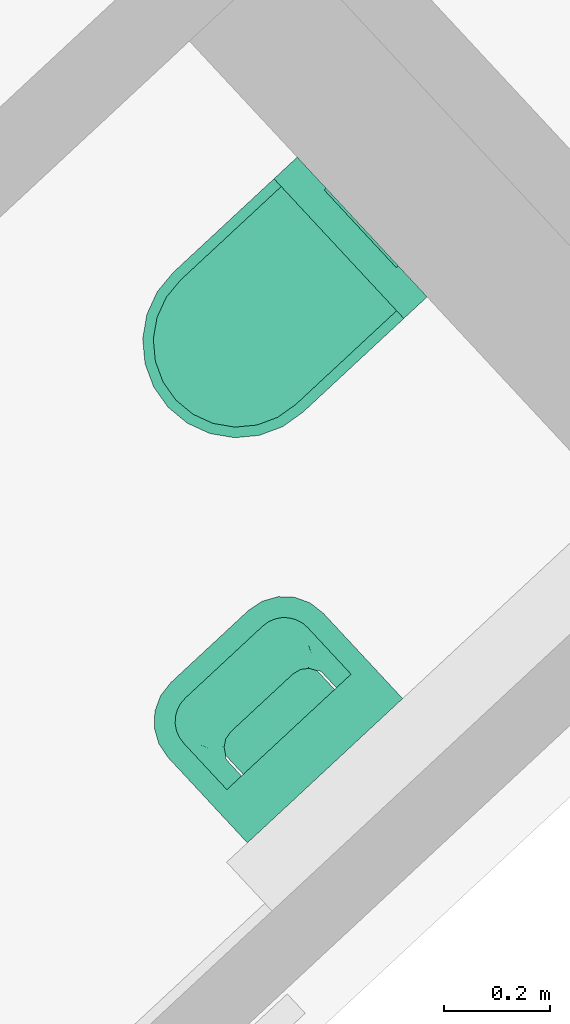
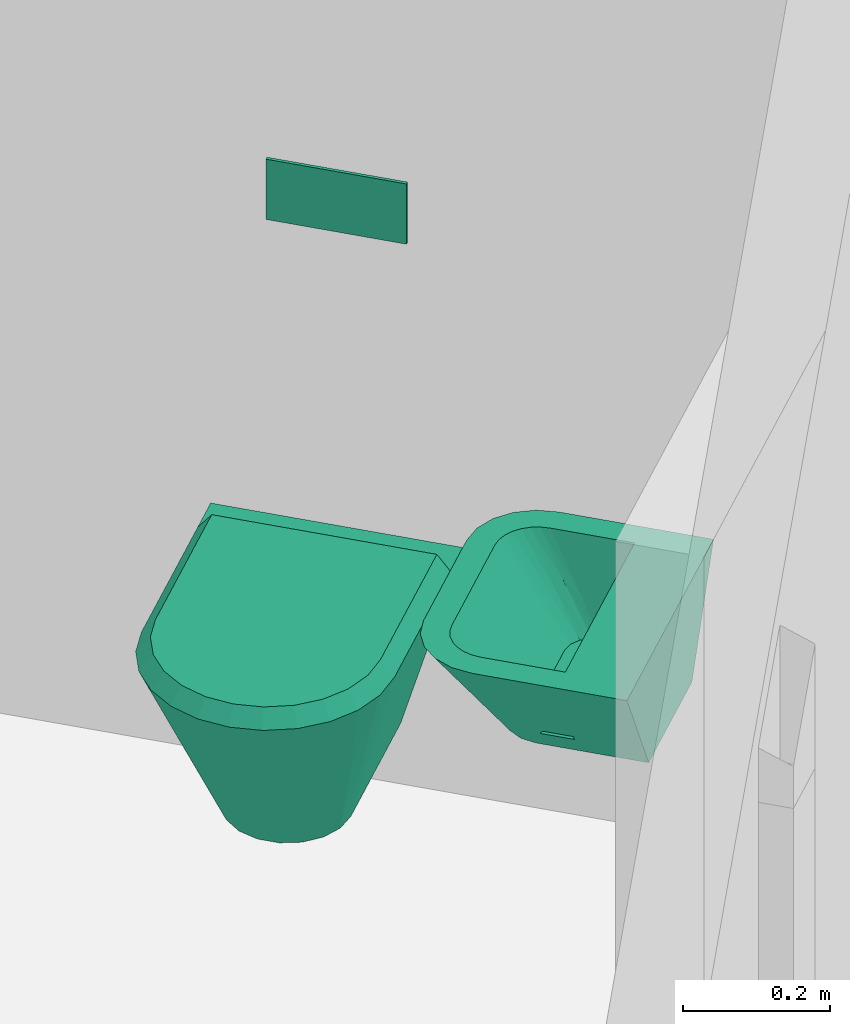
# One storey, part 6 of 7: 2 flow terminals.
"""IFC2X3 building model written with IfcOpenShell, lengths in millimetres."""

from ifc_helpers import new_model, entity, si_unit, converted_unit, derived_unit, direction, frame, frame_2d, origin, origin_with_axes, place, context, subcontext, project, spatial, rectangle, extrude, faceted_brep, source, transform, mapped, material, material_list, type_object, element, save


model = new_model("IFC2X3")

# Units and contexts
model_context = context("Model", 3, precision=0.01, world=origin(), true_north=direction((6.12323399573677e-17, 1.0)))
plan_context = context("Plan", 3, precision=1e-05, world=origin_with_axes())
body_context = subcontext(model_context, "Body", "Model", "MODEL_VIEW")
ifc_project = project(units=[converted_unit("PLANEANGLEUNIT", "DEGREE", entity("IfcPositiveLengthMeasure", 0.0174532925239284), si_unit("PLANEANGLEUNIT", "RADIAN"), dimensions=[0, 0, 0, 0, 0, 0, 0]), si_unit("AREAUNIT", "SQUARE_METRE"), si_unit("LENGTHUNIT", "METRE", prefix="MILLI"), si_unit("MASSUNIT", "GRAM", prefix="KILO"), si_unit("POWERUNIT", "WATT"), si_unit("PRESSUREUNIT", "PASCAL", prefix="KILO"), si_unit("FORCEUNIT", "NEWTON", prefix="KILO"), si_unit("ELECTRICVOLTAGEUNIT", "VOLT"), si_unit("ELECTRICCURRENTUNIT", "AMPERE"), si_unit("THERMODYNAMICTEMPERATUREUNIT", "DEGREE_CELSIUS"), si_unit("TIMEUNIT", "SECOND"), si_unit("VOLUMEUNIT", "CUBIC_METRE"), derived_unit("LINEARVELOCITYUNIT", [(si_unit("LENGTHUNIT", "METRE"), 1), (si_unit("TIMEUNIT", "SECOND"), -1)]), derived_unit("VOLUMETRICFLOWRATEUNIT", [(si_unit("VOLUMEUNIT", "CUBIC_METRE"), 1), (si_unit("TIMEUNIT", "SECOND"), -1)]), derived_unit("THERMALTRANSMITTANCEUNIT", [(si_unit("POWERUNIT", "WATT"), 1), (si_unit("THERMODYNAMICTEMPERATUREUNIT", "KELVIN"), -1), (si_unit("AREAUNIT", "SQUARE_METRE"), -1)]), derived_unit("SOUNDPRESSUREUNIT", [(si_unit("PRESSUREUNIT", "PASCAL"), 1)])], contexts=[model_context, plan_context])

# Site, building, storey
site_placement = place(None, frame((159880.25068742, 140851.808625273, 0.0), z_axis=(0.0, 0.0, 1.0), x_axis=(-0.680735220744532, 0.732529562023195, 0.0)))
site = spatial("IfcSite", under=ifc_project, at=site_placement, Name="Default", CompositionType="ELEMENT")
building_placement = place(site_placement, origin_with_axes())
building = spatial("IfcBuilding", under=site, at=building_placement, CompositionType="ELEMENT")
storey_placement = place(building_placement, frame((0.0, 0.0, 4900.0), z_axis=(0.0, 0.0, 1.0), x_axis=(1.0, 0.0, 0.0)))
storey = spatial("IfcBuildingStorey", under=building, at=storey_placement, Name="001-01", CompositionType="ELEMENT", Elevation=4900.0)

# Flow terminals
ifc_material_1 = material(Name="Rustfritt Stål")
ifc_material_2 = material(Name="Porselen")
ifc_material_list = material_list([ifc_material_1, ifc_material_2])
distribution_element_type_1 = type_object("IfcDistributionElementType", Name="Sanitærutstyr - WC Vegghengt:Porselen", material=ifc_material_list)
shared_shape_1 = source(origin(), body_context, "Body", "SolidModel", [
    extrude(rectangle(XDim=5.0, YDim=200.0, at=frame_2d((-8.65973959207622e-15, 0.0), x_axis=(1.0, 0.0))), frame((125.0, 134.0, -4100.0), z_axis=(0.0, 0.0, 1.0), x_axis=(0.0, 1.0, 0.0)), (0.0, 0.0, 1.0), 100.0),
    faceted_brep([(45.0, 590.064064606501, -4565.0), (11.8629150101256, 564.63708499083, -4565.0), (-13.5640646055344, 531.500000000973, -4565.0), (-29.5481322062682, 492.911047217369, -4565.0), (-35.0, 451.500000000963, -4565.0), (-35.0, 191.500000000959, -4565.0), (285.0, 191.500000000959, -4565.0), (285.0, 451.500000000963, -4565.0), (279.548132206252, 492.911047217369, -4565.0), (263.564064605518, 531.500000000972, -4565.0), (238.137084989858, 564.637084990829, -4565.0), (205.0, 590.064064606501, -4565.0), (166.411047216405, 606.048132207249, -4565.0), (125.0, 611.500000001, -4565.0), (83.5889527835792, 606.048132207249, -4565.0), (305.0, 451.500000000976, -4590.0), (305.0, 191.500000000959, -4590.0), (-55.0, 191.500000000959, -4590.0), (-55.0, 451.500000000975, -4590.0), (-48.8666487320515, 498.087428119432, -4590.0), (-30.8845726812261, 541.500000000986, -4590.0), (-2.27922061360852, 578.779220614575, -4590.0), (35.0, 607.384572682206, -4590.0), (78.412571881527, 625.366648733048, -4590.0), (125.0, 631.500000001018, -4590.0), (171.587428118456, 625.366648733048, -4590.0), (215.0, 607.384572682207, -4590.0), (252.279220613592, 578.779220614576, -4590.0), (280.884572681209, 541.500000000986, -4590.0), (298.866648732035, 498.087428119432, -4590.0)], [[[0, 1, 2, 3, 4, 5, 6, 7, 8, 9, 10, 11, 12, 13, 14]], [[15, 16, 17, 18, 19, 20, 21, 22, 23, 24, 25, 26, 27, 28, 29]], [[4, 18, 17, 5]], [[5, 17, 16, 6]], [[6, 16, 15, 7]], [[2, 20, 19, 3]], [[1, 21, 20, 2]], [[14, 23, 22, 0]], [[0, 22, 21, 1]], [[13, 24, 23, 14]], [[18, 4, 3, 19]], [[25, 12, 11, 26]], [[26, 11, 10, 27]], [[8, 7, 15, 29]], [[9, 8, 29, 28]], [[10, 9, 28, 27]], [[25, 24, 13, 12]]]),
    faceted_brep([(-55.0, 451.500000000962, -4590.0), (-55.0, 131.500000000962, -4590.0), (305.0, 131.500000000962, -4590.0), (305.0, 451.500000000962, -4590.0), (298.866648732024, 498.087428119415, -4590.0), (280.884572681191, 541.500000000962, -4590.0), (252.279220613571, 578.77922061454, -4590.0), (215.0, 607.384572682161, -4590.0), (171.587428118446, 625.366648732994, -4590.0), (125.0, 631.500000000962, -4590.0), (78.4125718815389, 625.366648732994, -4590.0), (35.0, 607.384572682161, -4590.0), (-2.27922061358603, 578.779220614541, -4590.0), (-30.8845726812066, 541.500000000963, -4590.0), (-48.8666487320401, 498.087428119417, -4590.0), (80.0, 439.442286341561, -4900.0), (109.371664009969, 450.13269777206, -4900.0), (125.0, 450.13269777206, -4900.0), (140.628335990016, 450.13269777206, -4900.0), (170.0, 439.442286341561, -4900.0), (193.9439998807, 419.35088487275, -4900.0), (201.758167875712, 405.816348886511, -4900.0), (209.572335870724, 392.281812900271, -4900.0), (215.0, 361.500000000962, -4900.0), (215.0, 131.500000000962, -4900.0), (35.0, 131.500000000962, -4900.0), (35.0, 361.500000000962, -4900.0), (40.4276641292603, 392.281812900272, -4900.0), (48.2418321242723, 405.816348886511, -4900.0), (56.0560001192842, 419.35088487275, -4900.0), (256.05271400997, 402.552714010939, -4758.59620729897), (252.392293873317, 430.51977615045, -4760.37085838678), (247.351549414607, 463.55346782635, -4745.00000147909), (176.662263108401, 531.223737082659, -4744.99999986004), (207.182792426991, 513.602701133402, -4745.00000027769), (113.233974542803, 540.986284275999, -4744.99999991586), (151.05172543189, 541.695170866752, -4740.33789156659), (22.1155887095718, 497.335799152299, -4740.33789117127), (227.88440942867, 497.335800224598, -4740.33789262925), (42.8172070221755, 513.602700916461, -4744.99999996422), (73.3377365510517, 531.22373682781, -4745.00000004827), (2.64844871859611, 463.55346529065, -4744.99999997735), (-2.39230244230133, 430.519778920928, -4760.37083303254), (-6.05272049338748, 402.552720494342, -4758.59618496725)], [[[0, 1, 2, 3, 4, 5, 6, 7, 8, 9, 10, 11, 12, 13, 14]], [[15, 16, 17, 18, 19, 20, 21, 22, 23, 24, 25, 26, 27, 28, 29]], [[1, 25, 24, 2]], [[2, 24, 23, 30, 3]], [[31, 22, 32]], [[33, 34, 19]], [[20, 19, 34]], [[10, 9, 35]], [[17, 35, 36]], [[32, 22, 21]], [[37, 29, 28]], [[7, 33, 8]], [[3, 30, 23, 31]], [[22, 31, 23]], [[4, 31, 32]], [[34, 6, 38]], [[38, 20, 34]], [[34, 7, 6]], [[39, 40, 15]], [[40, 10, 35]], [[7, 34, 33]], [[36, 33, 18]], [[36, 8, 33]], [[19, 18, 33]], [[40, 35, 16]], [[35, 17, 16]], [[9, 8, 36]], [[40, 16, 15]], [[28, 27, 41]], [[3, 31, 4]], [[39, 12, 11]], [[36, 18, 17]], [[6, 5, 38]], [[40, 11, 10]], [[11, 40, 39]], [[0, 14, 42]], [[42, 26, 43, 0]], [[12, 39, 37]], [[42, 41, 27]], [[38, 32, 21]], [[32, 38, 5]], [[42, 14, 41]], [[38, 21, 20]], [[4, 32, 5]], [[37, 39, 29]], [[35, 9, 36]], [[15, 29, 39]], [[13, 12, 37]], [[41, 13, 37]], [[28, 41, 37]], [[14, 13, 41]], [[26, 42, 27]], [[1, 0, 43, 26, 25]]]),
])
flow_terminal_1_placement = place(storey_placement, frame((48755.0000000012, 9779.5, 5000.0), z_axis=(0.0, 0.0, 1.0), x_axis=(1.0, 0.0, 0.0)))
element("IfcFlowTerminal", 1, at=flow_terminal_1_placement, inside=storey, type_object=distribution_element_type_1, material=ifc_material_list, Name="Sanitærutstyr - WC Vegghengt:Porselen", ObjectType="Sanitærutstyr - WC Vegghengt:Porselen", context=body_context, shape_type="MappedRepresentation", body=[
    mapped(shared_shape_1, transform((0.0, 0.0, 0.0), scale=1.0)),
])
ifc_material_3 = material(Name="Bad - Hvitevarer")
distribution_element_type_2 = type_object("IfcDistributionElementType", Name="Sanitærutstyr - Servant Løs:54x33", material=ifc_material_3)
shared_shape_2 = source(origin(), body_context, "Body", "Brep", [
    faceted_brep([(252.7030239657, 329.906519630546, -4730.0), (274.067936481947, 363.901699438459, -4730.0), (241.325780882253, 337.056520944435, -4730.0), (296.191110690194, 341.778525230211, -4730.0), (262.203657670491, 320.403923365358, -4730.0), (269.351219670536, 309.025388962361, -4730.0), (310.395062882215, 313.901699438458, -4730.0), (273.787279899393, 296.341640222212, -4730.0), (315.289411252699, 283.0, -4730.0), (275.289411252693, 283.0, -4730.0), (275.289411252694, 163.0, -4730.0), (315.289411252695, 63.0, -4730.0), (-44.7105887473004, 163.0, -4730.0), (-84.7105887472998, 63.0, -4730.0), (-84.7105887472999, 283.0, -4730.0), (-44.7105887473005, 283.0, -4730.0), (-43.2084573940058, 296.341640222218, -4730.0), (-79.8162403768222, 313.901699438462, -4730.0), (-38.7723971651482, 309.025388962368, -4730.0), (-65.6122881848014, 341.778525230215, -4730.0), (-31.6248351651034, 320.403923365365, -4730.0), (-22.1242014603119, 329.906519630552, -4730.0), (-43.4891139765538, 363.901699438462, -4730.0), (-10.7469583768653, 337.056520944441, -4730.0), (-15.6122881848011, 378.105651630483, -4730.0), (1.9362899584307, 341.49524896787, -4730.0), (15.2894112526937, 383.0, -4730.0), (15.2894112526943, 343.0, -4730.0), (215.289411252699, 383.0, -4730.0), (215.289411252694, 343.0, -4730.0), (228.642532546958, 341.495248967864, -4730.0), (246.191110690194, 378.105651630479, -4730.0), (155.289411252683, 283.0, -4900.0), (166.769914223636, 280.71638597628, -4900.0), (178.250417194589, 278.432771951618, -4900.0), (187.983117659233, 271.929589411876, -4900.0), (197.715818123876, 265.426406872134, -4900.0), (204.219000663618, 255.69370640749, -4900.0), (210.72218320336, 245.961005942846, -4900.0), (213.005797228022, 234.480502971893, -4900.0), (215.289411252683, 223.0, -4900.0), (215.289411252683, 63.0, -4900.0), (15.2894112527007, 63.0, -4900.0), (15.2894112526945, 223.0, -4900.0), (17.5730252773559, 234.4805029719, -4900.0), (19.8566393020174, 245.961005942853, -4900.0), (26.3598218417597, 255.693706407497, -4900.0), (32.8630043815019, 265.42640687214, -4900.0), (42.5957048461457, 271.929589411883, -4900.0), (52.3284053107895, 278.432771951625, -4900.0), (63.8089082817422, 280.716385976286, -4900.0), (75.2894112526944, 283.0, -4900.0), (-2.35764757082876, 211.516617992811, -4870.0), (-34.7105887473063, 253.0, -4815.0), (-4.56671239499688, 210.137706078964, -4866.24458979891), (-2.35764757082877, 163.0, -4870.0), (-6.31716137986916, 207.169918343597, -4863.26882652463), (-6.93281096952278, 202.72222222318, -4862.22222222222), (-6.93281096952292, 163.0, -4862.22222222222), (232.936470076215, 163.0, -4870.0), (237.511633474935, 163.0, -4862.22222222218), (232.936470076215, 211.51661799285, -4870.0), (253.8828714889, 246.156076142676, -4834.39111759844), (237.511633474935, 202.722222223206, -4862.22222222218), (235.145534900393, 210.137706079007, -4866.2445897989), (236.895983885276, 207.169918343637, -4863.2688265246), (258.822141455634, 274.020390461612, -4820.22829506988), (252.977482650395, 291.46415581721, -4817.99433473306), (225.426337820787, 326.483911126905, -4809.77170286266), (247.154825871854, 308.753205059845, -4810.52817183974), (204.844246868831, 326.155273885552, -4821.38299356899), (185.289411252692, 333.0, -4815.0), (52.1333351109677, 321.593460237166, -4834.39111759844), (24.2690207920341, 326.5327302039, -4820.22829506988), (6.82525543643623, 320.688071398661, -4817.99433473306), (-28.1944998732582, 293.136926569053, -4809.77170286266), (-10.4637938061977, 314.86541462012, -4810.52817183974), (-27.8658626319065, 272.554835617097, -4821.38299356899), (228.737781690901, 218.400670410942, -4870.0), (224.539093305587, 225.284722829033, -4870.0), (217.928701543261, 229.966351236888, -4870.0), (211.318309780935, 234.647979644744, -4870.0), (203.303860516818, 236.32398982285, -4870.0), (195.2894112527, 238.0, -4870.0), (35.2894112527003, 238.0, -4870.0), (27.2749619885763, 236.323989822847, -4870.0), (19.2605127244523, 234.647979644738, -4870.0), (12.6501209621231, 229.966351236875, -4870.0), (6.0397291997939, 225.284722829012, -4870.0), (1.84104081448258, 218.400670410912, -4870.0), (208.691195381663, 308.35936667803, -4776.18751109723), (21.8876182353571, 308.35941334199, -4776.18744887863), (-6.12399013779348, 273.707292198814, -4806.2305519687), (10.7027855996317, 287.147544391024, -4801.47063203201), (-13.3781510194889, 267.586792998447, -4804.52679906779), (1.30145712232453, 281.950138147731, -4802.84694922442), (-23.2202847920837, 258.344339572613, -4796.46233440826), (-20.3346212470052, 231.201069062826, -4815.31588625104), (250.913426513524, 231.201032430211, -4815.31594658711), (253.799107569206, 258.344341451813, -4796.46233260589), (219.876035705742, 287.147543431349, -4801.47063369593), (243.956973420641, 267.586793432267, -4804.52679878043), (229.277365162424, 281.950138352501, -4802.84694913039), (236.702812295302, 273.70729200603, -4806.23055250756)], [[[0, 1, 2]], [[0, 3, 1]], [[3, 0, 4]], [[3, 4, 5]], [[5, 6, 3]], [[5, 7, 6]], [[8, 6, 7]], [[7, 9, 8]], [[10, 8, 9]], [[10, 11, 8]], [[11, 10, 12]], [[12, 13, 11]], [[13, 12, 14]], [[14, 12, 15]], [[15, 16, 14]], [[14, 16, 17]], [[18, 17, 16]], [[19, 17, 18]], [[20, 19, 18]], [[21, 19, 20]], [[19, 21, 22]], [[22, 21, 23]], [[22, 23, 24]], [[24, 23, 25]], [[25, 26, 24]], [[27, 26, 25]], [[26, 27, 28]], [[29, 28, 27]], [[28, 29, 30]], [[2, 31, 30]], [[30, 31, 28]], [[1, 31, 2]], [[32, 33, 34, 35, 36, 37, 38, 39, 40, 41, 42, 43, 44, 45, 46, 47, 48, 49, 50, 51]], [[52, 14, 53]], [[54, 14, 52]], [[52, 53, 43]], [[52, 43, 55]], [[14, 54, 56]], [[14, 56, 57]], [[58, 14, 57]], [[55, 42, 58]], [[58, 13, 14]], [[13, 58, 42]], [[55, 43, 42]], [[13, 42, 41, 11]], [[41, 59, 60]], [[60, 11, 41]], [[59, 41, 40]], [[61, 59, 40]], [[61, 40, 62]], [[61, 62, 8]], [[8, 11, 60]], [[8, 60, 63]], [[8, 64, 61]], [[65, 64, 8]], [[65, 8, 63]], [[66, 38, 67]], [[66, 39, 38]], [[39, 62, 40]], [[62, 39, 66]], [[66, 67, 6]], [[62, 66, 8]], [[3, 6, 67]], [[31, 1, 68]], [[35, 69, 36]], [[35, 68, 69]], [[1, 3, 69]], [[68, 70, 31]], [[69, 68, 1]], [[28, 31, 70]], [[37, 69, 67]], [[69, 37, 36]], [[34, 68, 35]], [[69, 3, 67]], [[70, 68, 34]], [[66, 6, 8]], [[70, 34, 33]], [[32, 71, 33]], [[67, 38, 37]], [[71, 28, 70]], [[33, 71, 70]], [[26, 28, 71, 32, 51, 72]], [[73, 49, 74]], [[73, 50, 49]], [[50, 72, 51]], [[72, 50, 73]], [[73, 74, 24]], [[72, 73, 26]], [[22, 24, 74]], [[17, 19, 75]], [[46, 76, 47]], [[46, 75, 76]], [[19, 22, 76]], [[75, 77, 17]], [[76, 75, 19]], [[14, 17, 77]], [[48, 76, 74]], [[76, 48, 47]], [[45, 75, 46]], [[76, 22, 74]], [[77, 75, 45]], [[73, 24, 26]], [[77, 45, 44]], [[43, 53, 44]], [[74, 49, 48]], [[53, 14, 77]], [[44, 53, 77]], [[61, 78, 79, 80, 81, 82, 83, 84, 85, 86, 87, 88, 89, 52, 55, 59]], [[84, 83, 90, 29, 27, 91]], [[87, 92, 88]], [[25, 93, 91]], [[20, 94, 92]], [[86, 95, 87]], [[96, 18, 16]], [[23, 95, 93]], [[97, 57, 56]], [[23, 93, 25]], [[23, 21, 95]], [[94, 89, 88]], [[21, 92, 95]], [[85, 93, 86]], [[54, 96, 56]], [[94, 20, 18]], [[96, 16, 97]], [[92, 94, 88]], [[86, 93, 95]], [[97, 56, 96]], [[84, 91, 85]], [[96, 52, 89]], [[21, 20, 92]], [[96, 54, 52]], [[15, 97, 16]], [[96, 89, 94]], [[93, 85, 91]], [[94, 18, 96]], [[25, 91, 27]], [[95, 92, 87]], [[12, 58, 57, 97, 15]], [[58, 12, 10, 60, 59, 55]], [[63, 60, 10, 9, 98]], [[7, 98, 9]], [[99, 7, 5]], [[64, 99, 61]], [[65, 99, 64]], [[99, 65, 98]], [[82, 100, 90]], [[99, 5, 101]], [[63, 98, 65]], [[78, 61, 99]], [[7, 99, 98]], [[78, 101, 79]], [[102, 100, 81]], [[4, 103, 101]], [[99, 101, 78]], [[0, 103, 4]], [[100, 30, 90]], [[90, 83, 82]], [[100, 102, 2]], [[2, 102, 0]], [[103, 102, 80]], [[4, 101, 5]], [[81, 100, 82]], [[102, 103, 0]], [[79, 103, 80]], [[100, 2, 30]], [[80, 102, 81]], [[101, 103, 79]], [[30, 29, 90]]]),
])
flow_terminal_2_placement = place(storey_placement, frame((48113.0, 10776.2894112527, 5630.0), z_axis=(0.0, 0.0, 1.0), x_axis=(0.0, -1.0, 0.0)))
element("IfcFlowTerminal", 2, at=flow_terminal_2_placement, inside=storey, type_object=distribution_element_type_2, material=ifc_material_3, Name="Sanitærutstyr - Servant Løs:54x33", ObjectType="Sanitærutstyr - Servant Løs:54x33", context=body_context, shape_type="MappedRepresentation", body=[
    mapped(shared_shape_2, transform((0.0, 0.0, 0.0), scale=1.0)),
])

save(model, "model.ifc")
